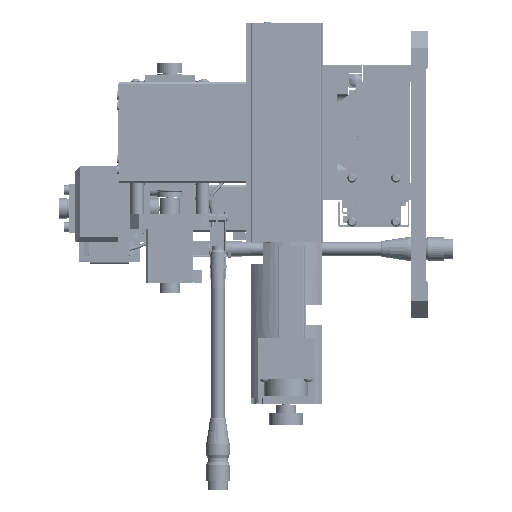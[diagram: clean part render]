
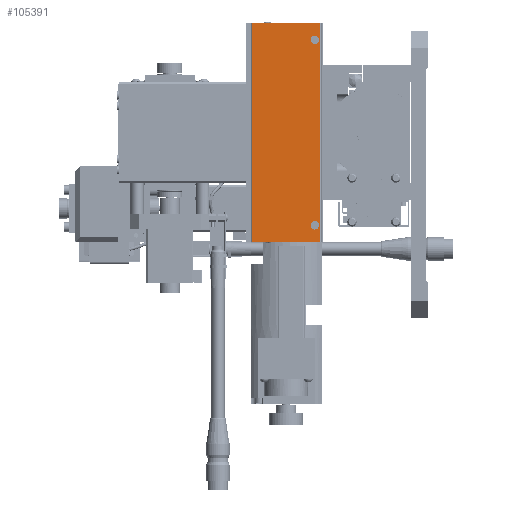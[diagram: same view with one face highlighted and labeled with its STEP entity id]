
A CAD part, left-side view. The second image highlights one B-rep face of the part: STEP entity #105391.
In plain terms, the highlighted planar face has unit normal (-1, 0, 0).
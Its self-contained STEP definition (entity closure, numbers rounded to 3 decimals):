
#2590 = ORIENTED_EDGE ( 'NONE', *, *, #134125, .F. ) ;
#3363 = EDGE_CURVE ( 'NONE', #50912, #6321, #134263, .T. ) ;
#3380 = ORIENTED_EDGE ( 'NONE', *, *, #8251, .F. ) ;
#4847 = LINE ( 'NONE', #136463, #29992 ) ;
#5865 = CARTESIAN_POINT ( 'NONE',  ( -96., 60., -135. ) ) ;
#6321 = VERTEX_POINT ( 'NONE', #132400 ) ;
#6787 = PLANE ( 'NONE',  #68861 ) ;
#7001 = CIRCLE ( 'NONE', #17114, 2.5 ) ;
#8251 = EDGE_CURVE ( 'NONE', #80649, #122158, #4847, .T. ) ;
#12549 = CARTESIAN_POINT ( 'NONE',  ( -96., 67., -5. ) ) ;
#16897 = ORIENTED_EDGE ( 'NONE', *, *, #73253, .T. ) ;
#17114 = AXIS2_PLACEMENT_3D ( 'NONE', #63586, #74344, #42487 ) ;
#21664 = ORIENTED_EDGE ( 'NONE', *, *, #42450, .T. ) ;
#29992 = VECTOR ( 'NONE', #51175, 1000. ) ;
#31560 = DIRECTION ( 'NONE',  ( 0., 1., 0. ) ) ;
#34139 = ORIENTED_EDGE ( 'NONE', *, *, #104525, .T. ) ;
#34306 = DIRECTION ( 'NONE',  ( 0., 0., -1. ) ) ;
#34628 = CARTESIAN_POINT ( 'NONE',  ( -96., 104., -125. ) ) ;
#37727 = LINE ( 'NONE', #110671, #52796 ) ;
#42450 = EDGE_CURVE ( 'NONE', #135065, #112608, #43627, .T. ) ;
#42487 = DIRECTION ( 'NONE',  ( 0., -1., 0. ) ) ;
#43627 = CIRCLE ( 'NONE', #44298, 2.5 ) ;
#44298 = AXIS2_PLACEMENT_3D ( 'NONE', #12549, #88028, #44916 ) ;
#44916 = DIRECTION ( 'NONE',  ( 0., -1., 0. ) ) ;
#45617 = DIRECTION ( 'NONE',  ( 1., 0., 0. ) ) ;
#50912 = VERTEX_POINT ( 'NONE', #122936 ) ;
#51175 = DIRECTION ( 'NONE',  ( 0., -1., 0. ) ) ;
#51756 = EDGE_LOOP ( 'NONE', ( #16897, #2590, #96922, #3380 ) ) ;
#52213 = CARTESIAN_POINT ( 'NONE',  ( -96., 64., -125. ) ) ;
#52239 = CARTESIAN_POINT ( 'NONE',  ( -96., 64., -125. ) ) ;
#52796 = VECTOR ( 'NONE', #34306, 1000. ) ;
#54995 = VECTOR ( 'NONE', #59409, 1000. ) ;
#55967 = DIRECTION ( 'NONE',  ( 0., -1., 0. ) ) ;
#59409 = DIRECTION ( 'NONE',  ( 0., 0., 1. ) ) ;
#59509 = VERTEX_POINT ( 'NONE', #34628 ) ;
#61362 = FACE_BOUND ( 'NONE', #103364, .T. ) ;
#63586 = CARTESIAN_POINT ( 'NONE',  ( -96., 67., -115. ) ) ;
#68861 = AXIS2_PLACEMENT_3D ( 'NONE', #5865, #81388, #103344 ) ;
#71288 = ORIENTED_EDGE ( 'NONE', *, *, #3363, .T. ) ;
#73253 = EDGE_CURVE ( 'NONE', #80649, #59509, #37727, .T. ) ;
#74344 = DIRECTION ( 'NONE',  ( 1., 0., 0. ) ) ;
#74796 = VERTEX_POINT ( 'NONE', #52213 ) ;
#80649 = VERTEX_POINT ( 'NONE', #108732 ) ;
#81388 = DIRECTION ( 'NONE',  ( -1., 0., 0. ) ) ;
#82997 = EDGE_LOOP ( 'NONE', ( #129257, #71288 ) ) ;
#83485 = LINE ( 'NONE', #91261, #54995 ) ;
#84235 = LINE ( 'NONE', #52239, #121236 ) ;
#86301 = CARTESIAN_POINT ( 'NONE',  ( -96., 67., -5. ) ) ;
#88028 = DIRECTION ( 'NONE',  ( 1., 0., 0. ) ) ;
#88148 = DIRECTION ( 'NONE',  ( 0., -1., 0. ) ) ;
#89193 = CARTESIAN_POINT ( 'NONE',  ( -96., 67., -115. ) ) ;
#91261 = CARTESIAN_POINT ( 'NONE',  ( -96., 64., -125. ) ) ;
#96922 = ORIENTED_EDGE ( 'NONE', *, *, #118405, .T. ) ;
#97537 = DIRECTION ( 'NONE',  ( 1., 0., 0. ) ) ;
#103271 = FACE_BOUND ( 'NONE', #82997, .T. ) ;
#103344 = DIRECTION ( 'NONE',  ( 0., 0., 1. ) ) ;
#103364 = EDGE_LOOP ( 'NONE', ( #34139, #21664 ) ) ;
#104525 = EDGE_CURVE ( 'NONE', #112608, #135065, #105133, .T. ) ;
#105133 = CIRCLE ( 'NONE', #120010, 2.5 ) ;
#105391 = ADVANCED_FACE ( 'NONE', ( #131800, #103271, #61362 ), #6787, .T. ) ;
#108617 = EDGE_CURVE ( 'NONE', #6321, #50912, #7001, .T. ) ;
#108732 = CARTESIAN_POINT ( 'NONE',  ( -96., 104., 5. ) ) ;
#110227 = AXIS2_PLACEMENT_3D ( 'NONE', #89193, #45617, #55967 ) ;
#110671 = CARTESIAN_POINT ( 'NONE',  ( -96., 104., 5. ) ) ;
#112608 = VERTEX_POINT ( 'NONE', #114951 ) ;
#114951 = CARTESIAN_POINT ( 'NONE',  ( -96., 69.5, -5. ) ) ;
#118405 = EDGE_CURVE ( 'NONE', #74796, #122158, #83485, .T. ) ;
#120010 = AXIS2_PLACEMENT_3D ( 'NONE', #86301, #97537, #88148 ) ;
#121236 = VECTOR ( 'NONE', #31560, 1000. ) ;
#122158 = VERTEX_POINT ( 'NONE', #126878 ) ;
#122936 = CARTESIAN_POINT ( 'NONE',  ( -96., 64.5, -115. ) ) ;
#126878 = CARTESIAN_POINT ( 'NONE',  ( -96., 64., 5. ) ) ;
#129257 = ORIENTED_EDGE ( 'NONE', *, *, #108617, .T. ) ;
#131800 = FACE_OUTER_BOUND ( 'NONE', #51756, .T. ) ;
#132400 = CARTESIAN_POINT ( 'NONE',  ( -96., 69.5, -115. ) ) ;
#134125 = EDGE_CURVE ( 'NONE', #74796, #59509, #84235, .T. ) ;
#134263 = CIRCLE ( 'NONE', #110227, 2.5 ) ;
#135065 = VERTEX_POINT ( 'NONE', #135694 ) ;
#135694 = CARTESIAN_POINT ( 'NONE',  ( -96., 64.5, -5. ) ) ;
#136463 = CARTESIAN_POINT ( 'NONE',  ( -96., 104., 5. ) ) ;
